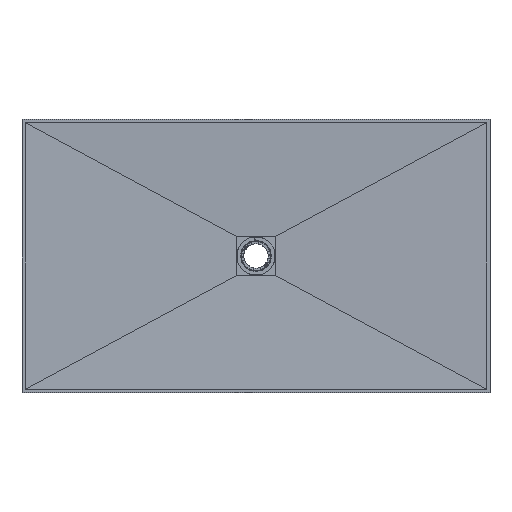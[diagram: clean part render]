
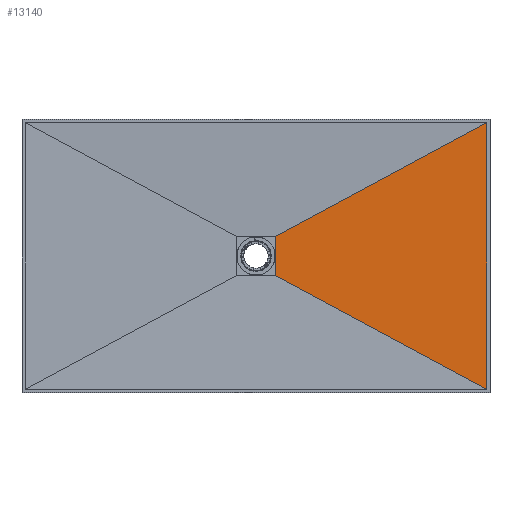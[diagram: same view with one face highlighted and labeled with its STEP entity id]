
A CAD part, top view. The second image highlights one B-rep face of the part: STEP entity #13140.
In plain terms, the highlighted planar face has unit normal (-0.021, 0, 1).
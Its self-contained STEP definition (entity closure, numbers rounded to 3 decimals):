
#2340=FACE_OUTER_BOUND('',#3085,.T.);
#3085=EDGE_LOOP('',(#8808,#8809,#8810,#8811));
#3894=LINE('',#18662,#4515);
#3900=LINE('',#18674,#4521);
#3902=LINE('',#18677,#4523);
#3903=LINE('',#18679,#4524);
#4515=VECTOR('',#15360,10.);
#4521=VECTOR('',#15368,10.);
#4523=VECTOR('',#15372,10.);
#4524=VECTOR('',#15375,10.);
#5133=VERTEX_POINT('',#18659);
#5134=VERTEX_POINT('',#18661);
#5137=VERTEX_POINT('',#18668);
#5139=VERTEX_POINT('',#18672);
#6601=EDGE_CURVE('',#5133,#5134,#3894,.F.);
#6607=EDGE_CURVE('',#5137,#5139,#3900,.F.);
#6609=EDGE_CURVE('',#5133,#5137,#3902,.T.);
#6610=EDGE_CURVE('',#5134,#5139,#3903,.T.);
#8808=ORIENTED_EDGE('',*,*,#6601,.F.);
#8809=ORIENTED_EDGE('',*,*,#6609,.T.);
#8810=ORIENTED_EDGE('',*,*,#6607,.T.);
#8811=ORIENTED_EDGE('',*,*,#6610,.F.);
#13070=PLANE('',#13973);
#13140=ADVANCED_FACE('',(#2340),#13070,.F.);
#13973=AXIS2_PLACEMENT_3D('',#18678,#15373,#15374);
#15360=DIRECTION('',(0.,1.,0.));
#15368=DIRECTION('',(0.,1.,0.));
#15372=DIRECTION('',(-0.88,-0.474,-0.019));
#15373=DIRECTION('center_axis',(0.021,0.,-1.));
#15374=DIRECTION('ref_axis',(-1.,0.,-0.021));
#15375=DIRECTION('',(-0.88,0.474,-0.019));
#18659=CARTESIAN_POINT('',(898.587,65.675,20.));
#18661=CARTESIAN_POINT('',(898.587,-975.675,20.));
#18662=CARTESIAN_POINT('',(898.587,32.85,20.));
#18668=CARTESIAN_POINT('',(73.387,-378.525,2.5));
#18672=CARTESIAN_POINT('',(73.387,-531.475,2.5));
#18674=CARTESIAN_POINT('',(73.387,-194.65,2.5));
#18677=CARTESIAN_POINT('',(199.708,-310.527,5.179));
#18678=CARTESIAN_POINT('Origin',(898.573,65.7,20.));
#18679=CARTESIAN_POINT('',(681.343,-858.735,15.393));
